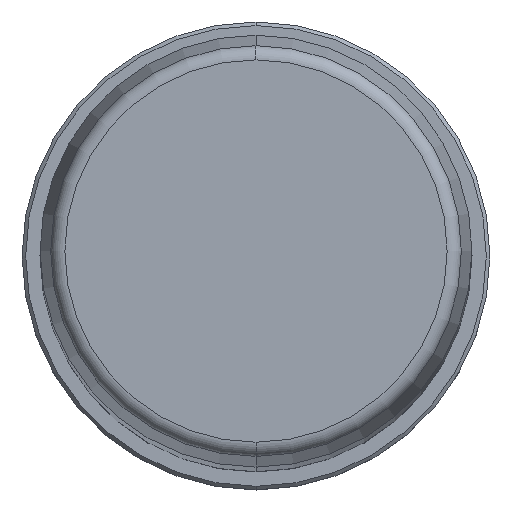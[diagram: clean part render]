
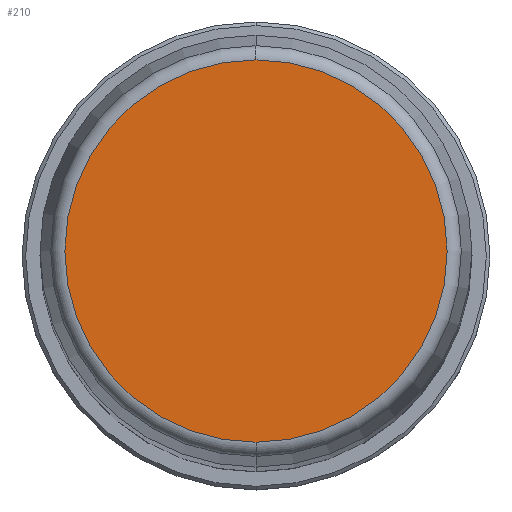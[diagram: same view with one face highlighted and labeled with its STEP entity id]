
A CAD part, top view. The second image highlights one B-rep face of the part: STEP entity #210.
In plain terms, the highlighted planar face has unit normal (0, 0, 1).
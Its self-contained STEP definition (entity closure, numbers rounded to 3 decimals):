
#1=CARTESIAN_POINT('',(0.,0.,400.));
#2=DIRECTION('',(0.,0.,-1.));
#3=DIRECTION('',(0.,-1.,0.));
#4=AXIS2_PLACEMENT_3D('',#1,#2,#3);
#6=CARTESIAN_POINT('',(0.,0.,400.));
#7=DIRECTION('',(0.,0.,-1.));
#8=DIRECTION('',(0.,1.,0.));
#9=AXIS2_PLACEMENT_3D('',#6,#7,#8);
#183=CARTESIAN_POINT('',(0.,-26.559,400.));
#184=CARTESIAN_POINT('',(0.,26.559,400.));
#185=VERTEX_POINT('',#183);
#186=VERTEX_POINT('',#184);
#199=CARTESIAN_POINT('',(0.,0.,400.));
#200=DIRECTION('',(0.,0.,1.));
#201=DIRECTION('',(0.,-1.,0.));
#202=AXIS2_PLACEMENT_3D('',#199,#200,#201);
#203=PLANE('',#202);
#205=ORIENTED_EDGE('',*,*,#204,.T.);
#207=ORIENTED_EDGE('',*,*,#206,.T.);
#208=EDGE_LOOP('',(#205,#207));
#209=FACE_OUTER_BOUND('',#208,.F.);
#210=ADVANCED_FACE('',(#209),#203,.T.);
#5=CIRCLE('',#4,26.559);
#10=CIRCLE('',#9,26.559);
#204=EDGE_CURVE('',#185,#186,#5,.T.);
#206=EDGE_CURVE('',#186,#185,#10,.T.);
